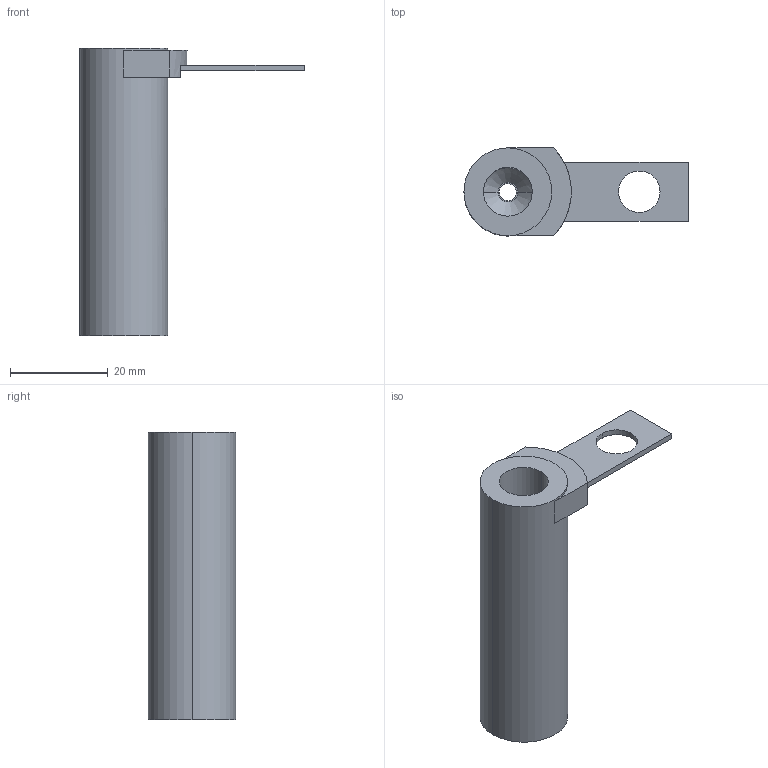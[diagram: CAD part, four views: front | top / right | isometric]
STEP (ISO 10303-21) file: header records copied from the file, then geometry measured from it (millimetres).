
FILE_DESCRIPTION(/* description */ (''),/* implementation_level */ '2;1');
FILE_NAME(/* name */ '3d_tus10-59_06244_r00.stp',/* time_stamp */ '2011-01-10T14:08:55+09:00',/* author */ ('MISUMI'),/* organization */ (''),/* preprocessor_version */ 'ST-DEVELOPER v11',/* originating_system */ 'UGS - NX 5.0',/* authorisation */ '');
FILE_SCHEMA (('CONFIG_CONTROL_DESIGN'));
Length unit declared in the file: millimetre
Products named in the file (1): 3d_tus10-59_06244_r00
Bounding box: 45.92 x 18 x 59 mm (x, y, z)
Volume: 11582.4 mm3; surface area: 6419.2 mm2
Topology: 2 solids, 2 shells, 28 faces, 67 edges, 44 vertices
Faces by surface type: plane 17, cylinder 9, cone 2
Entity records: 915 total; most frequent: DIRECTION 153, CARTESIAN_POINT 140, ORIENTED_EDGE 134, EDGE_CURVE 67, AXIS2_PLACEMENT_3D 57, VERTEX_POINT 44, LINE 39, VECTOR 39
